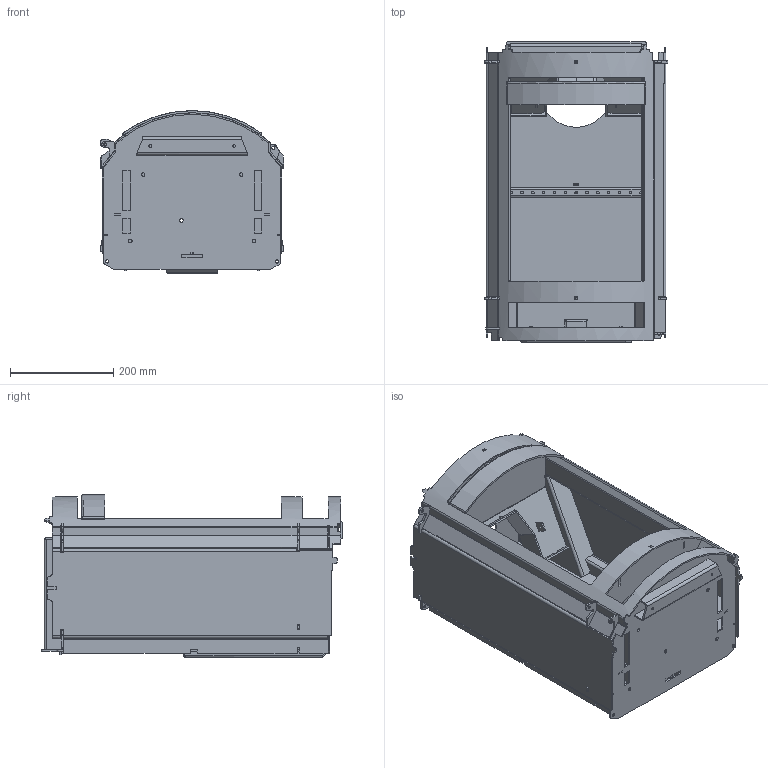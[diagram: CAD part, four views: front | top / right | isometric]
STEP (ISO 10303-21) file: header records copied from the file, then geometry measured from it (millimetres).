
FILE_DESCRIPTION (( 'STEP AP203' ), '1' );
FILE_NAME ('231-01-000 Loziste Si7 SKLOP.STEP', '2022-04-13T05:25:03', ( '' ), ( '' ), 'SwSTEP 2.0', 'SolidWorks 2021', '' );
FILE_SCHEMA (( 'CONFIG_CONTROL_DESIGN' ));
Products named in the file (1): 231-01-000 Loziste Si7 SKLOP
Bounding box: 356.84 x 584 x 315.48 mm (x, y, z)
Volume: 3449939.2 mm3; surface area: 2302344.8 mm2
Topology: 27 solids, 27 shells, 1435 faces, 3763 edges, 2382 vertices
Faces by surface type: plane 930, cylinder 388, bspline 117
Entity records: 53527 total; most frequent: CARTESIAN_POINT 18299, ORIENTED_EDGE 7526, DIRECTION 6798, EDGE_CURVE 3763, VECTOR 2894, LINE 2894, VERTEX_POINT 2382, AXIS2_PLACEMENT_3D 1952
